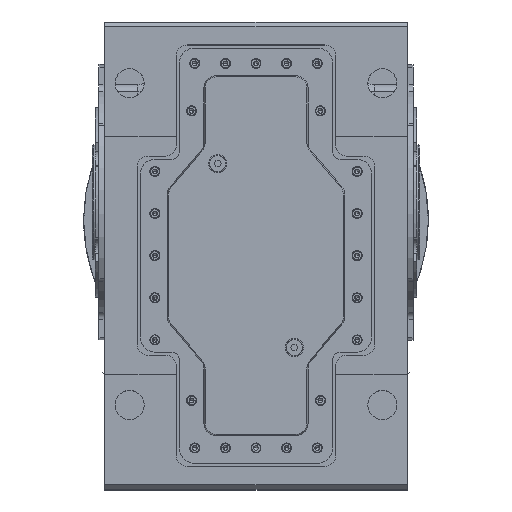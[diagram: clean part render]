
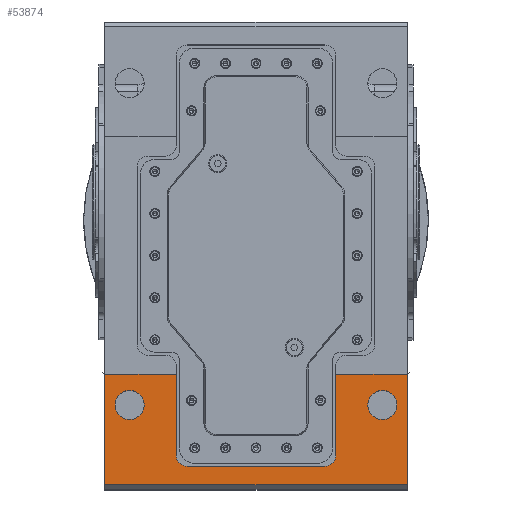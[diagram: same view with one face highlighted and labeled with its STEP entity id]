
A CAD part, top view. The second image highlights one B-rep face of the part: STEP entity #53874.
In plain terms, the highlighted planar face has unit normal (0, 0, 1).
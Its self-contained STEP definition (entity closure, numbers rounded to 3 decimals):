
#1140 = CARTESIAN_POINT ( 'NONE',  ( -200., -202.5, 687. ) ) ;
#1145 = PLANE ( 'NONE',  #100852 ) ;
#1155 = DIRECTION ( 'NONE',  ( 0., 0., 1. ) ) ;
#1161 = DIRECTION ( 'NONE',  ( 1., 0., 0. ) ) ;
#5739 = AXIS2_PLACEMENT_3D ( 'NONE', #23755, #23756, #23792 ) ;
#5767 = AXIS2_PLACEMENT_3D ( 'NONE', #23846, #23858, #23868 ) ;
#5795 = AXIS2_PLACEMENT_3D ( 'NONE', #24143, #24151, #24131 ) ;
#5800 = AXIS2_PLACEMENT_3D ( 'NONE', #24047, #24070, #24051 ) ;
#6458 = AXIS2_PLACEMENT_3D ( 'NONE', #58576, #58569, #58570 ) ;
#6533 = AXIS2_PLACEMENT_3D ( 'NONE', #58600, #58591, #58592 ) ;
#18779 = VERTEX_POINT ( 'NONE', #88081 ) ;
#18785 = VERTEX_POINT ( 'NONE', #88056 ) ;
#18787 = VERTEX_POINT ( 'NONE', #88096 ) ;
#21210 = VERTEX_POINT ( 'NONE', #87209 ) ;
#21211 = VERTEX_POINT ( 'NONE', #87248 ) ;
#21213 = VERTEX_POINT ( 'NONE', #87213 ) ;
#21225 = VERTEX_POINT ( 'NONE', #87230 ) ;
#21227 = VERTEX_POINT ( 'NONE', #87214 ) ;
#21253 = VERTEX_POINT ( 'NONE', #87229 ) ;
#23755 = CARTESIAN_POINT ( 'NONE',  ( 90., -308.5, 687. ) ) ;
#23756 = DIRECTION ( 'NONE',  ( 0., 0., -1. ) ) ;
#23792 = DIRECTION ( 'NONE',  ( 1., 0., 0. ) ) ;
#23846 = CARTESIAN_POINT ( 'NONE',  ( -90., -308.5, 687. ) ) ;
#23852 = CARTESIAN_POINT ( 'NONE',  ( 104., -202.5, 687. ) ) ;
#23857 = DIRECTION ( 'NONE',  ( 0., -1., 0. ) ) ;
#23858 = DIRECTION ( 'NONE',  ( 0., 0., -1. ) ) ;
#23868 = DIRECTION ( 'NONE',  ( 1., 0., 0. ) ) ;
#23882 = DIRECTION ( 'NONE',  ( -1., 0., 0. ) ) ;
#23893 = CARTESIAN_POINT ( 'NONE',  ( -200., -322.5, 687. ) ) ;
#24047 = CARTESIAN_POINT ( 'NONE',  ( -165., -242.5, 687. ) ) ;
#24049 = DIRECTION ( 'NONE',  ( 0., 1., 0. ) ) ;
#24051 = DIRECTION ( 'NONE',  ( 1., 0., 0. ) ) ;
#24070 = DIRECTION ( 'NONE',  ( 0., 0., -1. ) ) ;
#24074 = CARTESIAN_POINT ( 'NONE',  ( -104., -202.5, 687. ) ) ;
#24131 = DIRECTION ( 'NONE',  ( 1., 0., 0. ) ) ;
#24143 = CARTESIAN_POINT ( 'NONE',  ( 165., -242.5, 687. ) ) ;
#24151 = DIRECTION ( 'NONE',  ( 0., 0., -1. ) ) ;
#24539 = LINE ( 'NONE', #26338, #24543 ) ;
#24543 = VECTOR ( 'NONE', #26336, 1000. ) ;
#25412 = LINE ( 'NONE', #24074, #25419 ) ;
#25416 = CIRCLE ( 'NONE', #5800, 19. ) ;
#25419 = VECTOR ( 'NONE', #24049, 1000. ) ;
#25462 = CIRCLE ( 'NONE', #5795, 19. ) ;
#26336 = DIRECTION ( 'NONE',  ( -1., 0., 0. ) ) ;
#26338 = CARTESIAN_POINT ( 'NONE',  ( -200., -202.5, 687. ) ) ;
#35020 = VERTEX_POINT ( 'NONE', #41184 ) ;
#36259 = LINE ( 'NONE', #39120, #36279 ) ;
#36268 = LINE ( 'NONE', #39166, #36272 ) ;
#36272 = VECTOR ( 'NONE', #39169, 1000. ) ;
#36279 = VECTOR ( 'NONE', #39185, 1000. ) ;
#36329 = VECTOR ( 'NONE', #39251, 1000. ) ;
#36362 = LINE ( 'NONE', #39218, #36329 ) ;
#38209 = CARTESIAN_POINT ( 'NONE',  ( 146., -242.5, 687. ) ) ;
#38220 = CARTESIAN_POINT ( 'NONE',  ( 184., -242.5, 687. ) ) ;
#38281 = CARTESIAN_POINT ( 'NONE',  ( -146., -242.5, 687. ) ) ;
#38403 = CARTESIAN_POINT ( 'NONE',  ( -184., -242.5, 687. ) ) ;
#38522 = LINE ( 'NONE', #39041, #38549 ) ;
#38549 = VECTOR ( 'NONE', #39051, 1000. ) ;
#39041 = CARTESIAN_POINT ( 'NONE',  ( 197.5, 229.5, 687. ) ) ;
#39051 = DIRECTION ( 'NONE',  ( 0., -1., 0. ) ) ;
#39120 = CARTESIAN_POINT ( 'NONE',  ( -200., -202.5, 687. ) ) ;
#39166 = CARTESIAN_POINT ( 'NONE',  ( -200., -346.5, 687. ) ) ;
#39169 = DIRECTION ( 'NONE',  ( 1., 0., 0. ) ) ;
#39185 = DIRECTION ( 'NONE',  ( -1., 0., 0. ) ) ;
#39218 = CARTESIAN_POINT ( 'NONE',  ( -197.5, 229.5, 687. ) ) ;
#39251 = DIRECTION ( 'NONE',  ( 0., 1., 0. ) ) ;
#41184 = CARTESIAN_POINT ( 'NONE',  ( -197.5, -202.5, 687. ) ) ;
#42430 = EDGE_CURVE ( 'NONE', #18779, #18787, #38522, .T. ) ;
#42509 = EDGE_CURVE ( 'NONE', #18779, #21253, #36259, .T. ) ;
#42524 = EDGE_CURVE ( 'NONE', #18785, #18787, #36268, .T. ) ;
#42573 = EDGE_CURVE ( 'NONE', #18785, #35020, #36362, .T. ) ;
#44546 = EDGE_CURVE ( 'NONE', #21211, #21213, #75200, .T. ) ;
#44575 = EDGE_CURVE ( 'NONE', #21210, #21225, #73181, .T. ) ;
#44585 = EDGE_CURVE ( 'NONE', #21253, #21211, #73044, .T. ) ;
#44596 = EDGE_CURVE ( 'NONE', #21213, #21210, #73153, .T. ) ;
#44659 = EDGE_CURVE ( 'NONE', #21225, #21227, #25412, .T. ) ;
#44670 = EDGE_CURVE ( 'NONE', #84762, #84745, #25416, .T. ) ;
#44696 = EDGE_CURVE ( 'NONE', #84712, #84706, #25462, .T. ) ;
#44972 = EDGE_CURVE ( 'NONE', #21227, #35020, #24539, .T. ) ;
#46930 = EDGE_CURVE ( 'NONE', #84706, #84712, #57691, .T. ) ;
#46993 = EDGE_CURVE ( 'NONE', #84745, #84762, #57714, .T. ) ;
#53874 = ADVANCED_FACE ( 'NONE', ( #99221, #99253, #99247 ), #1145, .T. ) ;
#57691 = CIRCLE ( 'NONE', #6458, 19. ) ;
#57714 = CIRCLE ( 'NONE', #6533, 19. ) ;
#58569 = DIRECTION ( 'NONE',  ( 0., 0., -1. ) ) ;
#58570 = DIRECTION ( 'NONE',  ( 1., 0., 0. ) ) ;
#58576 = CARTESIAN_POINT ( 'NONE',  ( 165., -242.5, 687. ) ) ;
#58591 = DIRECTION ( 'NONE',  ( 0., 0., -1. ) ) ;
#58592 = DIRECTION ( 'NONE',  ( 1., 0., 0. ) ) ;
#58600 = CARTESIAN_POINT ( 'NONE',  ( -165., -242.5, 687. ) ) ;
#72189 = ORIENTED_EDGE ( 'NONE', *, *, #44670, .T. ) ;
#72332 = ORIENTED_EDGE ( 'NONE', *, *, #44972, .T. ) ;
#72356 = ORIENTED_EDGE ( 'NONE', *, *, #46993, .T. ) ;
#72440 = ORIENTED_EDGE ( 'NONE', *, *, #44575, .T. ) ;
#72453 = ORIENTED_EDGE ( 'NONE', *, *, #44596, .T. ) ;
#72475 = ORIENTED_EDGE ( 'NONE', *, *, #44546, .T. ) ;
#72502 = ORIENTED_EDGE ( 'NONE', *, *, #46930, .T. ) ;
#72547 = ORIENTED_EDGE ( 'NONE', *, *, #42524, .T. ) ;
#72614 = ORIENTED_EDGE ( 'NONE', *, *, #44585, .T. ) ;
#72630 = ORIENTED_EDGE ( 'NONE', *, *, #42430, .F. ) ;
#72632 = ORIENTED_EDGE ( 'NONE', *, *, #42573, .F. ) ;
#72636 = ORIENTED_EDGE ( 'NONE', *, *, #44696, .T. ) ;
#72656 = ORIENTED_EDGE ( 'NONE', *, *, #42509, .T. ) ;
#72680 = ORIENTED_EDGE ( 'NONE', *, *, #44659, .T. ) ;
#73044 = LINE ( 'NONE', #23852, #73088 ) ;
#73078 = VECTOR ( 'NONE', #23882, 1000. ) ;
#73088 = VECTOR ( 'NONE', #23857, 1000. ) ;
#73153 = LINE ( 'NONE', #23893, #73078 ) ;
#73181 = CIRCLE ( 'NONE', #5767, 14. ) ;
#73295 = EDGE_LOOP ( 'NONE', ( #72356, #72189 ) ) ;
#75200 = CIRCLE ( 'NONE', #5739, 14. ) ;
#84706 = VERTEX_POINT ( 'NONE', #38220 ) ;
#84712 = VERTEX_POINT ( 'NONE', #38209 ) ;
#84745 = VERTEX_POINT ( 'NONE', #38281 ) ;
#84762 = VERTEX_POINT ( 'NONE', #38403 ) ;
#87209 = CARTESIAN_POINT ( 'NONE',  ( -90., -322.5, 687. ) ) ;
#87213 = CARTESIAN_POINT ( 'NONE',  ( 90., -322.5, 687. ) ) ;
#87214 = CARTESIAN_POINT ( 'NONE',  ( -104., -202.5, 687. ) ) ;
#87229 = CARTESIAN_POINT ( 'NONE',  ( 104., -202.5, 687. ) ) ;
#87230 = CARTESIAN_POINT ( 'NONE',  ( -104., -308.5, 687. ) ) ;
#87248 = CARTESIAN_POINT ( 'NONE',  ( 104., -308.5, 687. ) ) ;
#88056 = CARTESIAN_POINT ( 'NONE',  ( -197.5, -346.5, 687. ) ) ;
#88081 = CARTESIAN_POINT ( 'NONE',  ( 197.5, -202.5, 687. ) ) ;
#88096 = CARTESIAN_POINT ( 'NONE',  ( 197.5, -346.5, 687. ) ) ;
#94647 = EDGE_LOOP ( 'NONE', ( #72440, #72680, #72332, #72632, #72547, #72630, #72656, #72614, #72475, #72453 ) ) ;
#94654 = EDGE_LOOP ( 'NONE', ( #72502, #72636 ) ) ;
#99221 = FACE_OUTER_BOUND ( 'NONE', #94647, .T. ) ;
#99247 = FACE_BOUND ( 'NONE', #73295, .T. ) ;
#99253 = FACE_BOUND ( 'NONE', #94654, .T. ) ;
#100852 = AXIS2_PLACEMENT_3D ( 'NONE', #1140, #1155, #1161 ) ;
